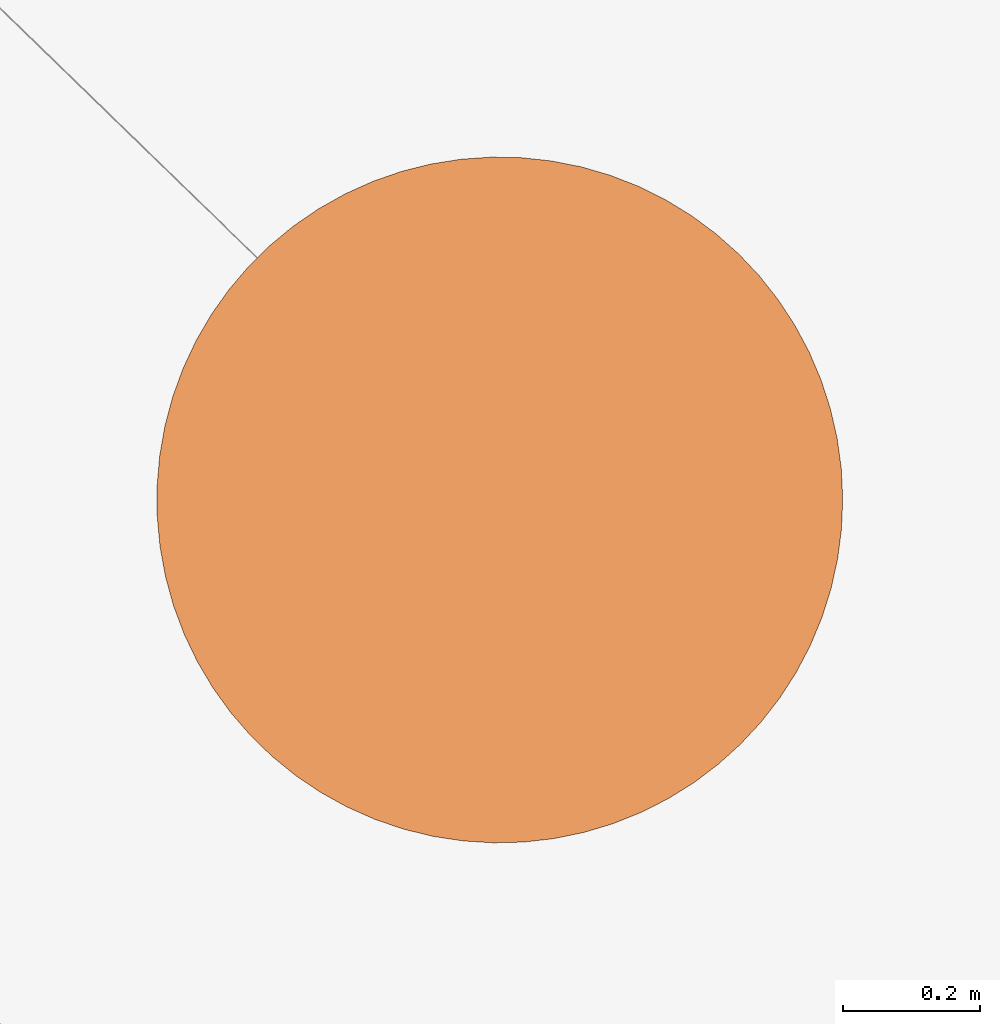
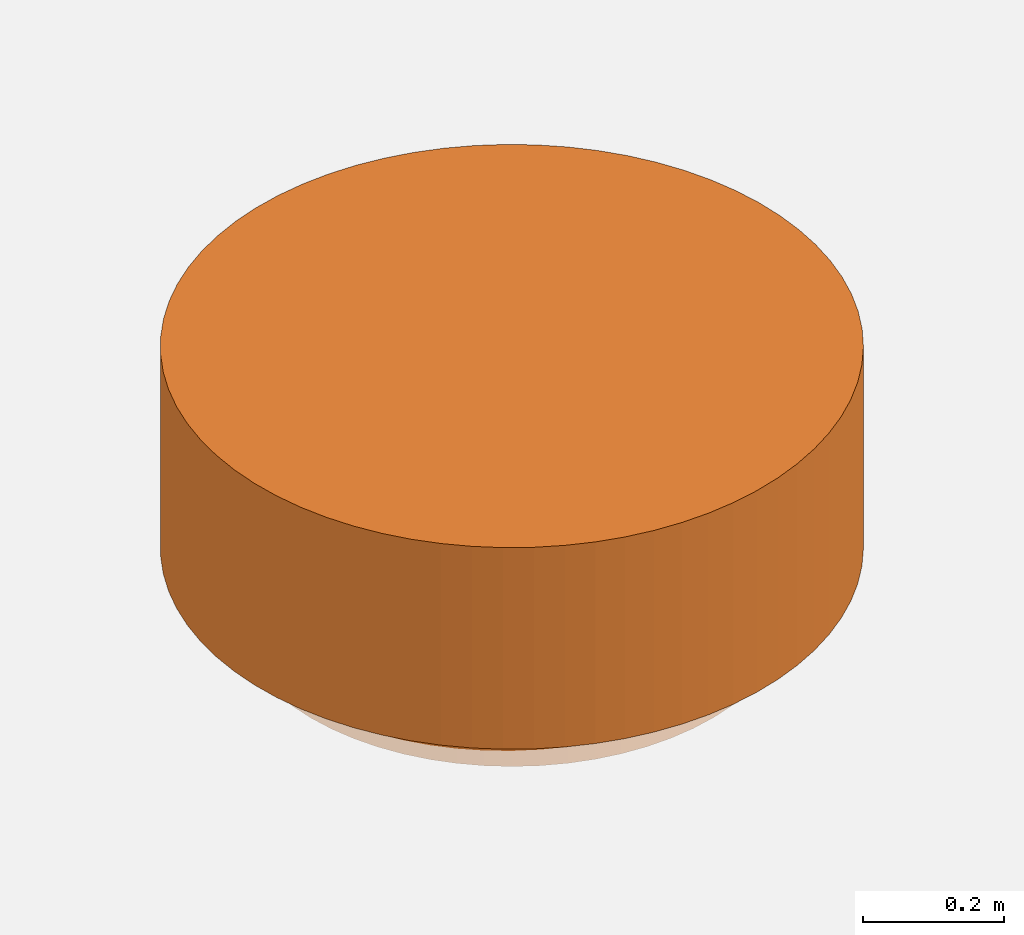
# One storey, part 36 of 37: 1 proxy.
"""IFC2X3 building model written with IfcOpenShell, lengths in centimetres."""

from ifc_helpers import new_model, entity, si_unit, converted_unit, derived_unit, direction, frame, frame_2d, origin, place, context, subcontext, project, spatial, circle, extrude, source, transform, mapped, material, type_object, type_shapes, element, save


model = new_model("IFC2X3")

# Units and contexts
model_context = context("Model", 3, precision=0.001, world=origin(), true_north=direction((0.717475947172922, 0.696583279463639)))
body_context = subcontext(model_context, "Body", "Model", "MODEL_VIEW")
ifc_project = project(units=[si_unit("LENGTHUNIT", "METRE", prefix="CENTI"), si_unit("AREAUNIT", "SQUARE_METRE"), si_unit("VOLUMEUNIT", "CUBIC_METRE"), converted_unit("PLANEANGLEUNIT", "DEGREE", entity("IfcRatioMeasure", 0.0174532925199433), si_unit("PLANEANGLEUNIT", "RADIAN"), dimensions=[0, 0, 0, 0, 0, 0, 0]), si_unit("MASSUNIT", "GRAM", prefix="KILO"), derived_unit("MASSDENSITYUNIT", [(si_unit("MASSUNIT", "GRAM", prefix="KILO"), 1), (si_unit("LENGTHUNIT", "METRE"), -3)]), si_unit("TIMEUNIT", "SECOND"), si_unit("FREQUENCYUNIT", "HERTZ"), si_unit("THERMODYNAMICTEMPERATUREUNIT", "DEGREE_CELSIUS"), derived_unit("THERMALTRANSMITTANCEUNIT", [(si_unit("MASSUNIT", "GRAM", prefix="KILO"), 1), (si_unit("THERMODYNAMICTEMPERATUREUNIT", "KELVIN"), -1), (si_unit("TIMEUNIT", "SECOND"), -3)]), derived_unit("VOLUMETRICFLOWRATEUNIT", [(si_unit("LENGTHUNIT", "METRE"), 3), (si_unit("TIMEUNIT", "SECOND"), -1)]), si_unit("ELECTRICCURRENTUNIT", "AMPERE"), si_unit("ELECTRICVOLTAGEUNIT", "VOLT"), si_unit("POWERUNIT", "WATT"), si_unit("FORCEUNIT", "NEWTON", prefix="KILO"), si_unit("ILLUMINANCEUNIT", "LUX"), si_unit("LUMINOUSFLUXUNIT", "LUMEN"), si_unit("LUMINOUSINTENSITYUNIT", "CANDELA"), derived_unit("USERDEFINED", [(si_unit("MASSUNIT", "GRAM", prefix="KILO"), -1), (si_unit("LENGTHUNIT", "METRE"), -2), (si_unit("TIMEUNIT", "SECOND"), 3), (si_unit("LUMINOUSFLUXUNIT", "LUMEN"), 1)]), derived_unit("LINEARVELOCITYUNIT", [(si_unit("LENGTHUNIT", "METRE"), 1), (si_unit("TIMEUNIT", "SECOND"), -1)]), si_unit("PRESSUREUNIT", "PASCAL"), derived_unit("USERDEFINED", [(si_unit("LENGTHUNIT", "METRE"), -2), (si_unit("MASSUNIT", "GRAM", prefix="KILO"), 1), (si_unit("TIMEUNIT", "SECOND"), -2)])], contexts=[model_context])

# Site, building, storey
site_placement = place(None, frame((0.0, 0.0, 0.0), z_axis=(0.0, 0.0, 1.0), x_axis=(0.696583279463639, 0.717475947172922, 0.0)))
site = spatial("IfcSite", under=ifc_project, at=site_placement, Name="Surface", CompositionType="ELEMENT")
building_placement = place(site_placement, origin())
building = spatial("IfcBuilding", under=site, at=building_placement, CompositionType="ELEMENT")
storey_placement = place(building_placement, origin())
storey = spatial("IfcBuildingStorey", under=building, at=storey_placement, Name="Nivel 0.00", CompositionType="ELEMENT", Elevation=0.0)

# Proxy
ifc_material = material(Name="Concrete, Precast")
building_element_proxy_type = type_object("IfcBuildingElementProxyType", Name="ARQ_BANCA_REDONDA", PredefinedType="NOTDEFINED", material=ifc_material)
shared_shape = source(origin(), body_context, "Body", "SweptSolid", [
    extrude(circle(Radius=50.0, at=frame_2d((9.37526436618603e-16, -8.07772287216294e-14), x_axis=(1.0, 0.0))), frame((0.0, 0.0, 10.0)), (0.0, 0.0, 1.0), 35.0),
    extrude(circle(Radius=40.0, at=frame_2d((-1.61808723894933e-18, -6.46217829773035e-14), x_axis=(1.0, 0.0))), origin(), (0.0, 0.0, 1.0), 10.0),
])
type_shapes(building_element_proxy_type, [shared_shape])
proxy_placement = place(storey_placement, frame((842.997822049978, 446.887472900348, 140.0)))
element("IfcBuildingElementProxy", 1, at=proxy_placement, inside=storey, type_object=building_element_proxy_type, material=ifc_material, Name="ARQ_BANCA_REDONDA:ARQ_BANCA_REDONDA", ObjectType="ARQ_BANCA_REDONDA", context=body_context, shape_type="MappedRepresentation", body=[
    mapped(shared_shape, transform((0.0, 0.0, 0.0), scale=1.0)),
])

save(model, "model.ifc")
